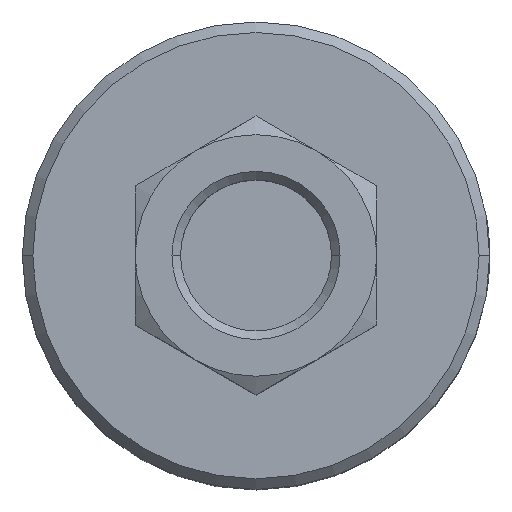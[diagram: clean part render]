
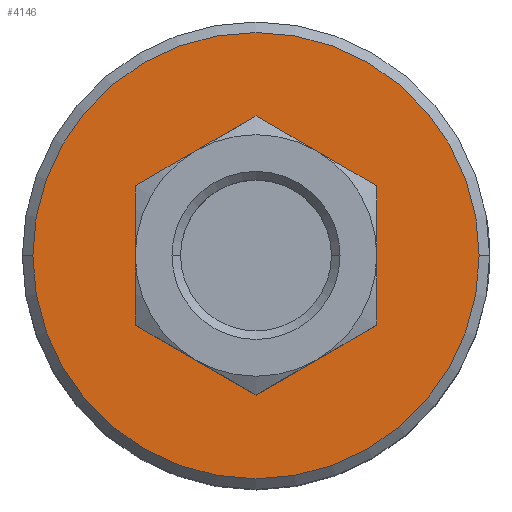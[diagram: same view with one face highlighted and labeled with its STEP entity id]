
A CAD part, top view. The second image highlights one B-rep face of the part: STEP entity #4146.
In plain terms, the highlighted planar face has unit normal (0, 0, 1).
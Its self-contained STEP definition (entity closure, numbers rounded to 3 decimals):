
#19 = DIRECTION ( 'NONE',  ( -0.866, -0.5, 0. ) ) ;
#49 = ORIENTED_EDGE ( 'NONE', *, *, #4073, .F. ) ;
#219 = AXIS2_PLACEMENT_3D ( 'NONE', #2415, #5842, #6395 ) ;
#383 = VERTEX_POINT ( 'NONE', #4635 ) ;
#505 = AXIS2_PLACEMENT_3D ( 'NONE', #2212, #2156, #2184 ) ;
#577 = ORIENTED_EDGE ( 'NONE', *, *, #629, .F. ) ;
#629 = EDGE_CURVE ( 'NONE', #3549, #5943, #3305, .T. ) ;
#858 = VECTOR ( 'NONE', #5378, 1000. ) ;
#1042 = LINE ( 'NONE', #5976, #858 ) ;
#1592 = PLANE ( 'NONE',  #505 ) ;
#1621 = DIRECTION ( 'NONE',  ( 0., 0., -1. ) ) ;
#1634 = LINE ( 'NONE', #5161, #5122 ) ;
#1651 = EDGE_CURVE ( 'NONE', #5943, #7008, #2609, .T. ) ;
#1737 = VERTEX_POINT ( 'NONE', #5718 ) ;
#1873 = EDGE_CURVE ( 'NONE', #1981, #383, #2698, .T. ) ;
#1981 = VERTEX_POINT ( 'NONE', #3043 ) ;
#1996 = CARTESIAN_POINT ( 'NONE',  ( -11.5, 13.879, 78. ) ) ;
#2156 = DIRECTION ( 'NONE',  ( 0., 0., -1. ) ) ;
#2182 = EDGE_CURVE ( 'NONE', #1737, #3549, #6418, .T. ) ;
#2184 = DIRECTION ( 'NONE',  ( 0., 1., 0. ) ) ;
#2212 = CARTESIAN_POINT ( 'NONE',  ( 0., 13.879, 78. ) ) ;
#2346 = CARTESIAN_POINT ( 'NONE',  ( -11.5, -6.64, 78. ) ) ;
#2393 = DIRECTION ( 'NONE',  ( 0.866, -0.5, 0. ) ) ;
#2415 = CARTESIAN_POINT ( 'NONE',  ( 0., 0., 78. ) ) ;
#2609 = LINE ( 'NONE', #7359, #7348 ) ;
#2682 = CIRCLE ( 'NONE', #3181, 21.25 ) ;
#2686 = CARTESIAN_POINT ( 'NONE',  ( 11.5, 6.64, 78. ) ) ;
#2698 = CIRCLE ( 'NONE', #219, 21.25 ) ;
#3043 = CARTESIAN_POINT ( 'NONE',  ( -21.25, 0., 78. ) ) ;
#3181 = AXIS2_PLACEMENT_3D ( 'NONE', #7398, #1621, #5605 ) ;
#3305 = LINE ( 'NONE', #3841, #5797 ) ;
#3349 = ORIENTED_EDGE ( 'NONE', *, *, #4041, .F. ) ;
#3549 = VERTEX_POINT ( 'NONE', #2686 ) ;
#3785 = DIRECTION ( 'NONE',  ( -0.866, 0.5, 0. ) ) ;
#3841 = CARTESIAN_POINT ( 'NONE',  ( 11.5, 6.64, 78. ) ) ;
#3973 = ORIENTED_EDGE ( 'NONE', *, *, #1873, .F. ) ;
#4041 = EDGE_CURVE ( 'NONE', #6986, #1737, #1042, .T. ) ;
#4073 = EDGE_CURVE ( 'NONE', #7008, #5178, #7114, .T. ) ;
#4146 = ADVANCED_FACE ( 'NONE', ( #5950, #6770 ), #1592, .F. ) ;
#4217 = CARTESIAN_POINT ( 'NONE',  ( -11.5, 6.64, 78. ) ) ;
#4276 = EDGE_LOOP ( 'NONE', ( #49, #7337, #577, #7113, #3349, #4367 ) ) ;
#4367 = ORIENTED_EDGE ( 'NONE', *, *, #6253, .F. ) ;
#4635 = CARTESIAN_POINT ( 'NONE',  ( 21.25, 0., 78. ) ) ;
#4859 = CARTESIAN_POINT ( 'NONE',  ( 0., 13.279, 78. ) ) ;
#5122 = VECTOR ( 'NONE', #2393, 1000. ) ;
#5161 = CARTESIAN_POINT ( 'NONE',  ( -11.5, -6.64, 78. ) ) ;
#5178 = VERTEX_POINT ( 'NONE', #2346 ) ;
#5378 = DIRECTION ( 'NONE',  ( 0.866, 0.5, 0. ) ) ;
#5439 = CARTESIAN_POINT ( 'NONE',  ( 0., -13.279, 78. ) ) ;
#5546 = DIRECTION ( 'NONE',  ( 0., -1., 0. ) ) ;
#5605 = DIRECTION ( 'NONE',  ( -1., 0., 0. ) ) ;
#5718 = CARTESIAN_POINT ( 'NONE',  ( 11.5, -6.64, 78. ) ) ;
#5767 = VECTOR ( 'NONE', #6636, 1000. ) ;
#5797 = VECTOR ( 'NONE', #3785, 1000. ) ;
#5842 = DIRECTION ( 'NONE',  ( 0., 0., -1. ) ) ;
#5943 = VERTEX_POINT ( 'NONE', #4859 ) ;
#5950 = FACE_BOUND ( 'NONE', #4276, .T. ) ;
#5976 = CARTESIAN_POINT ( 'NONE',  ( 0., -13.279, 78. ) ) ;
#6234 = VECTOR ( 'NONE', #5546, 1000. ) ;
#6253 = EDGE_CURVE ( 'NONE', #5178, #6986, #1634, .T. ) ;
#6395 = DIRECTION ( 'NONE',  ( -1., 0., 0. ) ) ;
#6418 = LINE ( 'NONE', #6704, #5767 ) ;
#6636 = DIRECTION ( 'NONE',  ( 0., 1., 0. ) ) ;
#6704 = CARTESIAN_POINT ( 'NONE',  ( 11.5, 13.879, 78. ) ) ;
#6728 = ORIENTED_EDGE ( 'NONE', *, *, #7368, .F. ) ;
#6770 = FACE_OUTER_BOUND ( 'NONE', #7346, .T. ) ;
#6986 = VERTEX_POINT ( 'NONE', #5439 ) ;
#7008 = VERTEX_POINT ( 'NONE', #4217 ) ;
#7113 = ORIENTED_EDGE ( 'NONE', *, *, #2182, .F. ) ;
#7114 = LINE ( 'NONE', #1996, #6234 ) ;
#7337 = ORIENTED_EDGE ( 'NONE', *, *, #1651, .F. ) ;
#7346 = EDGE_LOOP ( 'NONE', ( #3973, #6728 ) ) ;
#7348 = VECTOR ( 'NONE', #19, 1000. ) ;
#7359 = CARTESIAN_POINT ( 'NONE',  ( 0., 13.279, 78. ) ) ;
#7368 = EDGE_CURVE ( 'NONE', #383, #1981, #2682, .T. ) ;
#7398 = CARTESIAN_POINT ( 'NONE',  ( 0., 0., 78. ) ) ;
